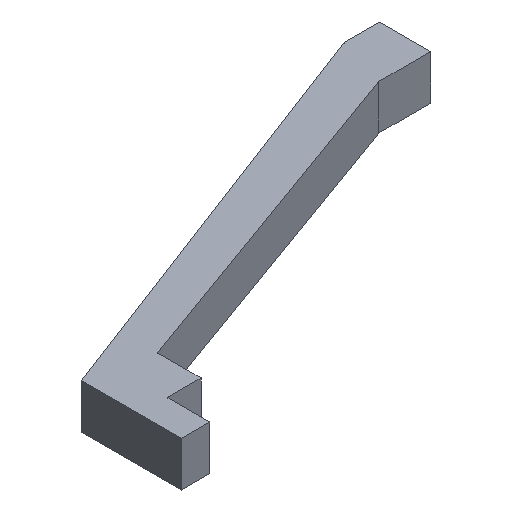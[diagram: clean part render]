
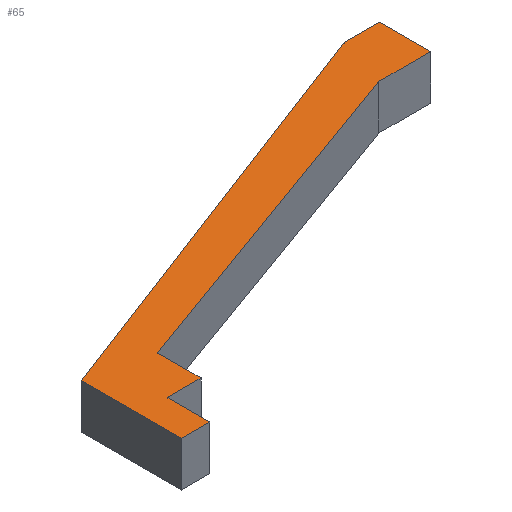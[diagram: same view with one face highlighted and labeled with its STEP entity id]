
A CAD part, isometric view. The second image highlights one B-rep face of the part: STEP entity #65.
In plain terms, the highlighted planar face has unit normal (0, 0, 1).
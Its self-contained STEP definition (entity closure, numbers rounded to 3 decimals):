
#4 = DIRECTION ( 'NONE',  ( -1., 0., 0. ) ) ;
#5 = ORIENTED_EDGE ( 'NONE', *, *, #109, .F. ) ;
#10 = VECTOR ( 'NONE', #101, 1000. ) ;
#11 = LINE ( 'NONE', #286, #106 ) ;
#12 = EDGE_CURVE ( 'NONE', #341, #405, #296, .T. ) ;
#25 = ORIENTED_EDGE ( 'NONE', *, *, #12, .F. ) ;
#34 = DIRECTION ( 'NONE',  ( 0., -1., 0. ) ) ;
#36 = DIRECTION ( 'NONE',  ( 0., -1., 0. ) ) ;
#38 = VECTOR ( 'NONE', #97, 1000. ) ;
#39 = VECTOR ( 'NONE', #34, 1000. ) ;
#40 = CARTESIAN_POINT ( 'NONE',  ( 15.883, 8.981, 10. ) ) ;
#43 = CARTESIAN_POINT ( 'NONE',  ( 15.883, 0., 10. ) ) ;
#46 = ORIENTED_EDGE ( 'NONE', *, *, #285, .F. ) ;
#48 = CARTESIAN_POINT ( 'NONE',  ( -4.135, 11.482, 10. ) ) ;
#51 = EDGE_CURVE ( 'NONE', #343, #193, #127, .T. ) ;
#56 = ORIENTED_EDGE ( 'NONE', *, *, #153, .F. ) ;
#61 = AXIS2_PLACEMENT_3D ( 'NONE', #98, #160, #124 ) ;
#65 = ADVANCED_FACE ( 'NONE', ( #364 ), #371, .T. ) ;
#67 = VECTOR ( 'NONE', #219, 1000. ) ;
#70 = VERTEX_POINT ( 'NONE', #303 ) ;
#89 = CARTESIAN_POINT ( 'NONE',  ( 0., 8.981, 10. ) ) ;
#94 = CARTESIAN_POINT ( 'NONE',  ( 8.351, 0., 10. ) ) ;
#95 = DIRECTION ( 'NONE',  ( -1., 0., 0. ) ) ;
#97 = DIRECTION ( 'NONE',  ( -1., 0., 0. ) ) ;
#98 = CARTESIAN_POINT ( 'NONE',  ( 0., 0., 10. ) ) ;
#101 = DIRECTION ( 'NONE',  ( 0., -1., 0. ) ) ;
#105 = DIRECTION ( 'NONE',  ( -0.941, -0.339, 0. ) ) ;
#106 = VECTOR ( 'NONE', #417, 1000. ) ;
#107 = ORIENTED_EDGE ( 'NONE', *, *, #185, .F. ) ;
#109 = EDGE_CURVE ( 'NONE', #356, #154, #384, .T. ) ;
#116 = CARTESIAN_POINT ( 'NONE',  ( 104.783, 58.009, 10. ) ) ;
#121 = EDGE_CURVE ( 'NONE', #433, #154, #209, .T. ) ;
#123 = VECTOR ( 'NONE', #105, 1000. ) ;
#124 = DIRECTION ( 'NONE',  ( 1., 0., 0. ) ) ;
#127 = LINE ( 'NONE', #221, #259 ) ;
#132 = CARTESIAN_POINT ( 'NONE',  ( -7.019, 18.431, 10. ) ) ;
#133 = LINE ( 'NONE', #48, #123 ) ;
#147 = EDGE_CURVE ( 'NONE', #360, #341, #203, .T. ) ;
#153 = EDGE_CURVE ( 'NONE', #433, #343, #308, .T. ) ;
#154 = VERTEX_POINT ( 'NONE', #170 ) ;
#160 = DIRECTION ( 'NONE',  ( 0., 0., 1. ) ) ;
#164 = CARTESIAN_POINT ( 'NONE',  ( 93.187, 46.531, 10. ) ) ;
#165 = CARTESIAN_POINT ( 'NONE',  ( 0., 58.009, 10. ) ) ;
#170 = CARTESIAN_POINT ( 'NONE',  ( 96.913, 58.009, 10. ) ) ;
#171 = CARTESIAN_POINT ( 'NONE',  ( 104.783, 46.531, 10. ) ) ;
#180 = VECTOR ( 'NONE', #4, 1000. ) ;
#185 = EDGE_CURVE ( 'NONE', #405, #70, #313, .T. ) ;
#187 = CARTESIAN_POINT ( 'NONE',  ( 8.351, 8.981, 10. ) ) ;
#193 = VERTEX_POINT ( 'NONE', #164 ) ;
#203 = LINE ( 'NONE', #43, #420 ) ;
#206 = EDGE_CURVE ( 'NONE', #70, #274, #401, .T. ) ;
#209 = LINE ( 'NONE', #165, #180 ) ;
#210 = EDGE_LOOP ( 'NONE', ( #318, #56, #215, #5, #387, #353, #107, #25, #276, #46 ) ) ;
#215 = ORIENTED_EDGE ( 'NONE', *, *, #121, .T. ) ;
#219 = DIRECTION ( 'NONE',  ( -1., 0., 0. ) ) ;
#221 = CARTESIAN_POINT ( 'NONE',  ( 0., 46.531, 10. ) ) ;
#226 = CARTESIAN_POINT ( 'NONE',  ( 2.001, -0.544, 10. ) ) ;
#238 = CARTESIAN_POINT ( 'NONE',  ( 0., -0.544, 10. ) ) ;
#247 = VECTOR ( 'NONE', #350, 1000. ) ;
#259 = VECTOR ( 'NONE', #95, 1000. ) ;
#274 = VERTEX_POINT ( 'NONE', #226 ) ;
#276 = ORIENTED_EDGE ( 'NONE', *, *, #147, .F. ) ;
#280 = CARTESIAN_POINT ( 'NONE',  ( 2.001, 21.866, 10. ) ) ;
#285 = EDGE_CURVE ( 'NONE', #193, #360, #133, .T. ) ;
#286 = CARTESIAN_POINT ( 'NONE',  ( 2.001, 0., 10. ) ) ;
#296 = LINE ( 'NONE', #89, #67 ) ;
#303 = CARTESIAN_POINT ( 'NONE',  ( 8.351, -0.544, 10. ) ) ;
#308 = LINE ( 'NONE', #403, #39 ) ;
#313 = LINE ( 'NONE', #94, #10 ) ;
#318 = ORIENTED_EDGE ( 'NONE', *, *, #51, .F. ) ;
#341 = VERTEX_POINT ( 'NONE', #40 ) ;
#343 = VERTEX_POINT ( 'NONE', #171 ) ;
#350 = DIRECTION ( 'NONE',  ( 0.935, 0.356, 0. ) ) ;
#353 = ORIENTED_EDGE ( 'NONE', *, *, #206, .F. ) ;
#356 = VERTEX_POINT ( 'NONE', #280 ) ;
#360 = VERTEX_POINT ( 'NONE', #389 ) ;
#364 = FACE_OUTER_BOUND ( 'NONE', #210, .T. ) ;
#371 = PLANE ( 'NONE',  #61 ) ;
#384 = LINE ( 'NONE', #132, #247 ) ;
#387 = ORIENTED_EDGE ( 'NONE', *, *, #404, .F. ) ;
#389 = CARTESIAN_POINT ( 'NONE',  ( 15.883, 18.691, 10. ) ) ;
#401 = LINE ( 'NONE', #238, #38 ) ;
#403 = CARTESIAN_POINT ( 'NONE',  ( 104.783, 0., 10. ) ) ;
#404 = EDGE_CURVE ( 'NONE', #274, #356, #11, .T. ) ;
#405 = VERTEX_POINT ( 'NONE', #187 ) ;
#417 = DIRECTION ( 'NONE',  ( 0., 1., 0. ) ) ;
#420 = VECTOR ( 'NONE', #36, 1000. ) ;
#433 = VERTEX_POINT ( 'NONE', #116 ) ;
